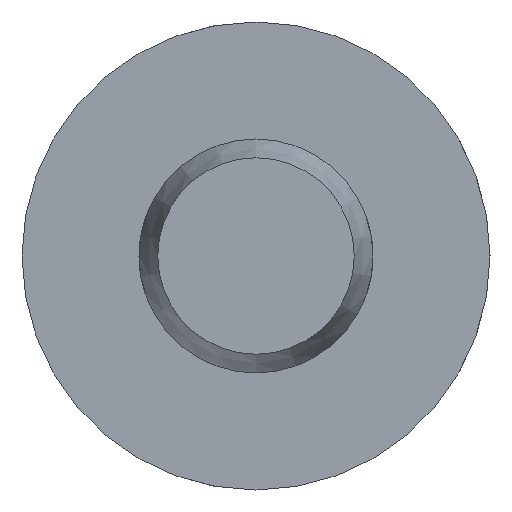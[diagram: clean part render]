
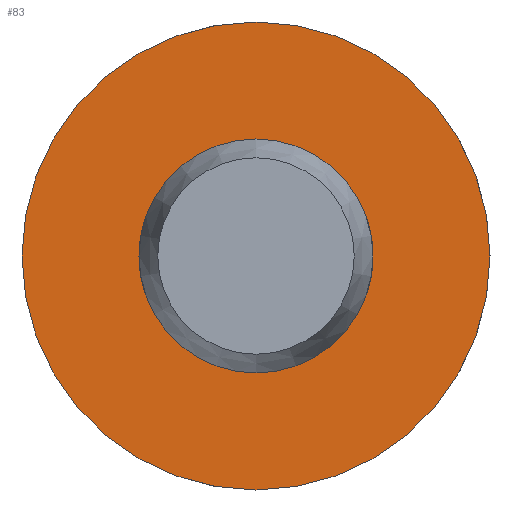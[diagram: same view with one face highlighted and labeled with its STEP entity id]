
A CAD part, left-side view. The second image highlights one B-rep face of the part: STEP entity #83.
In plain terms, the highlighted planar face has unit normal (-1, 0, 0).
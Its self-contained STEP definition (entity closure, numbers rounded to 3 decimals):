
#83 = ADVANCED_FACE( '', ( #129, #130 ), #131, .F. );
#129 = FACE_OUTER_BOUND( '', #208, .T. );
#130 = FACE_BOUND( '', #209, .T. );
#131 = PLANE( '', #210 );
#208 = EDGE_LOOP( '', ( #325 ) );
#209 = EDGE_LOOP( '', ( #326 ) );
#210 = AXIS2_PLACEMENT_3D( '', #327, #328, #329 );
#325 = ORIENTED_EDGE( '', *, *, #493, .F. );
#326 = ORIENTED_EDGE( '', *, *, #483, .T. );
#327 = CARTESIAN_POINT( '', ( 76., 2.5, 0. ) );
#328 = DIRECTION( '', ( 1., 0., 0. ) );
#329 = DIRECTION( '', ( 0., 0., -1. ) );
#483 = EDGE_CURVE( '', #554, #554, #555, .T. );
#493 = EDGE_CURVE( '', #572, #572, #573, .T. );
#554 = VERTEX_POINT( '', #741 );
#555 = CIRCLE( '', #742, 2.5 );
#572 = VERTEX_POINT( '', #842 );
#573 = CIRCLE( '', #843, 5. );
#741 = CARTESIAN_POINT( '', ( 76., 0., -2.5 ) );
#742 = AXIS2_PLACEMENT_3D( '', #906, #907, #908 );
#842 = CARTESIAN_POINT( '', ( 76., 0., -5. ) );
#843 = AXIS2_PLACEMENT_3D( '', #927, #928, #929 );
#906 = CARTESIAN_POINT( '', ( 76., 0., 0. ) );
#907 = DIRECTION( '', ( 1., 0., 0. ) );
#908 = DIRECTION( '', ( 0., 0., -1. ) );
#927 = CARTESIAN_POINT( '', ( 76., 0., 0. ) );
#928 = DIRECTION( '', ( 1., 0., 0. ) );
#929 = DIRECTION( '', ( 0., 0., -1. ) );
